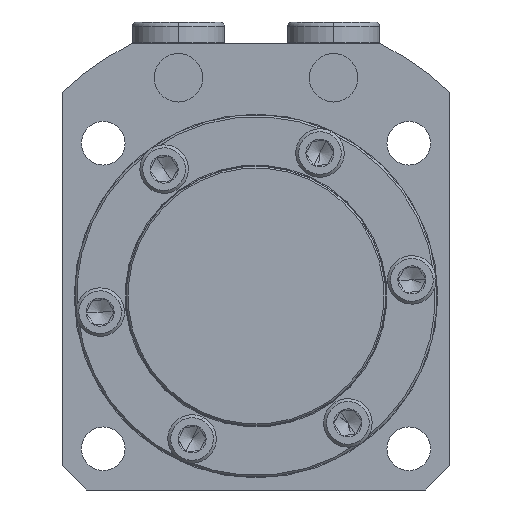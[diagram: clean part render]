
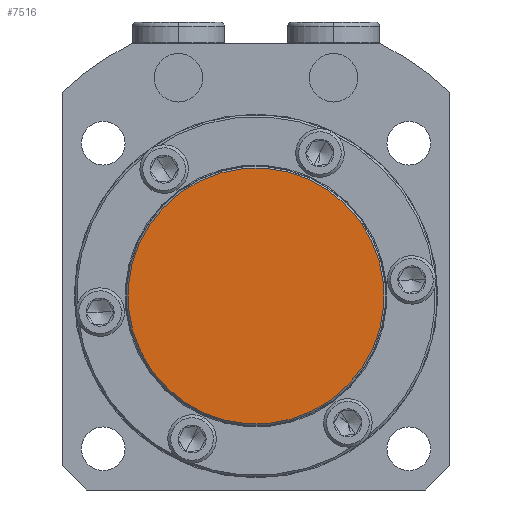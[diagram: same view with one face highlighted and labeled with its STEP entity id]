
A CAD part, front view. The second image highlights one B-rep face of the part: STEP entity #7516.
In plain terms, the highlighted planar face has unit normal (0, -1, 0).
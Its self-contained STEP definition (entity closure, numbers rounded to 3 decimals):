
#818 = ORIENTED_EDGE ( 'NONE', *, *, #1006, .T. ) ;
#819 = ORIENTED_EDGE ( 'NONE', *, *, #6147, .T. ) ;
#1006 = EDGE_CURVE ( 'NONE', #4266, #4265, #5893, .T. ) ;
#2900 = CARTESIAN_POINT ( 'NONE',  ( 0., -12.2, 0. ) ) ;
#2924 = FACE_OUTER_BOUND ( 'NONE', #6651, .T. ) ;
#2925 = PLANE ( 'NONE',  #5615 ) ;
#2928 = DIRECTION ( 'NONE',  ( 0., -1., 0. ) ) ;
#2929 = DIRECTION ( 'NONE',  ( 0., 0., -1. ) ) ;
#3544 = CARTESIAN_POINT ( 'NONE',  ( 0., -12.2, -26.4 ) ) ;
#3545 = CARTESIAN_POINT ( 'NONE',  ( 0., -12.2, 26.4 ) ) ;
#4265 = VERTEX_POINT ( 'NONE', #3544 ) ;
#4266 = VERTEX_POINT ( 'NONE', #3545 ) ;
#4988 = CARTESIAN_POINT ( 'NONE',  ( 0., -12.2, 0. ) ) ;
#4989 = DIRECTION ( 'NONE',  ( 0., -1., 0. ) ) ;
#4990 = DIRECTION ( 'NONE',  ( 0., 0., -1. ) ) ;
#5356 = CIRCLE ( 'NONE', #5363, 26.4 ) ;
#5363 = AXIS2_PLACEMENT_3D ( 'NONE', #4988, #4989, #4990 ) ;
#5615 = AXIS2_PLACEMENT_3D ( 'NONE', #2900, #2928, #2929 ) ;
#5893 = CIRCLE ( 'NONE', #5898, 26.4 ) ;
#5898 = AXIS2_PLACEMENT_3D ( 'NONE', #7023, #7024, #7025 ) ;
#6147 = EDGE_CURVE ( 'NONE', #4265, #4266, #5356, .T. ) ;
#6651 = EDGE_LOOP ( 'NONE', ( #818, #819 ) ) ;
#7023 = CARTESIAN_POINT ( 'NONE',  ( 0., -12.2, 0. ) ) ;
#7024 = DIRECTION ( 'NONE',  ( 0., -1., 0. ) ) ;
#7025 = DIRECTION ( 'NONE',  ( 0., 0., -1. ) ) ;
#7516 = ADVANCED_FACE ( 'NONE', ( #2924 ), #2925, .T. ) ;
